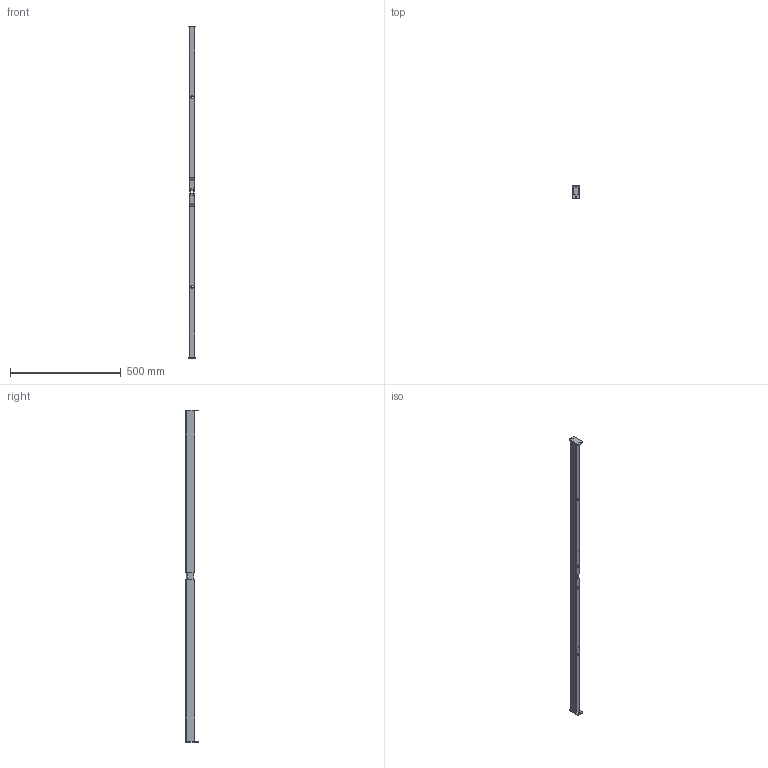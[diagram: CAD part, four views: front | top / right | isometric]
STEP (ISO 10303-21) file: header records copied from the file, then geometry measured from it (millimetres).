
FILE_DESCRIPTION (( 'STEP AP203' ), '1' );
FILE_NAME ('MILADESIGN spojovací tyè s regulací Mobilar MBR16-22_278210 a 283647 a 283646 a 283648_3D.STEP', '2022-01-20T10:03:44', ( '' ), ( '' ), 'SwSTEP 2.0', 'SolidWorks 2019', '' );
FILE_SCHEMA (( 'CONFIG_CONTROL_DESIGN' ));
Length unit declared in the file: millimetre
Products named in the file (3): MBR 16-22; MBR 16-22-støed; MILADESIGN spojovací tyè s regulací Mobilar MBR16-22_278210 a 283647 a 283646 a 283648_3D
Assembly tree (3 placements, depth 2):
  MILADESIGN spojovací tyè s regulací Mobilar MBR16-22_278210 a 283647 a 283646 a 283648_3D
    MBR 16-22-støed
    MBR 16-22  x2
Bounding box: 30 x 60 x 1500 mm (x, y, z)
Volume: 438828.5 mm3; surface area: 522567.1 mm2
Topology: 5 solids, 5 shells, 120 faces, 340 edges, 224 vertices
Faces by surface type: cylinder 62, plane 58
Entity records: 2771 total; most frequent: DIRECTION 448, CARTESIAN_POINT 423, ORIENTED_EDGE 416, EDGE_CURVE 208, AXIS2_PLACEMENT_3D 161, VERTEX_POINT 136, VECTOR 126, LINE 126
